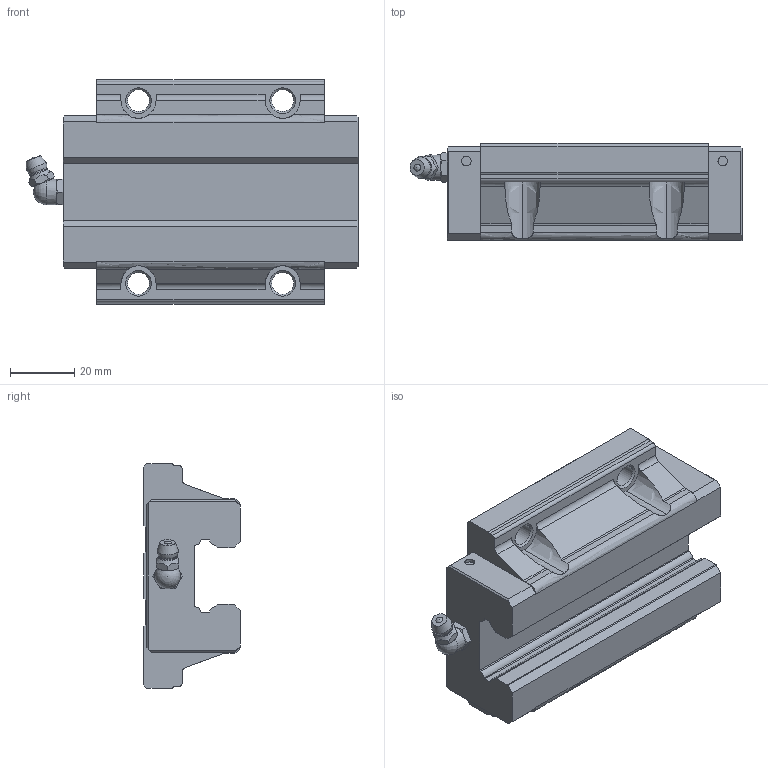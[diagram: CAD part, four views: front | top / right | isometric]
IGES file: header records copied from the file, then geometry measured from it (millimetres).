
Start section: Data from Parasolid IGES Translator 26.0.171, Copyright(c) 2006 Siemens PLM Software. All Rights Reserved.
Global section: file name: SHS25C1SS(GK) BLOCK(B-M6F1).igs; native system: By Siemens PLM Incorporated; preprocessor: XPlus GENERIC/IGES 26.0.171; author: Noname; organization: Noname; date: 20240514.033628; units: millimetre
Bounding box: 103.6 x 30.2 x 70 mm (x, y, z)
Surface area: 24163.6 mm2 (no closed solid volume)
Topology: 0 solids, 0 shells, 185 faces, 1010 edges, 972 vertices
Faces by surface type: extrusion 102, revolution 83
